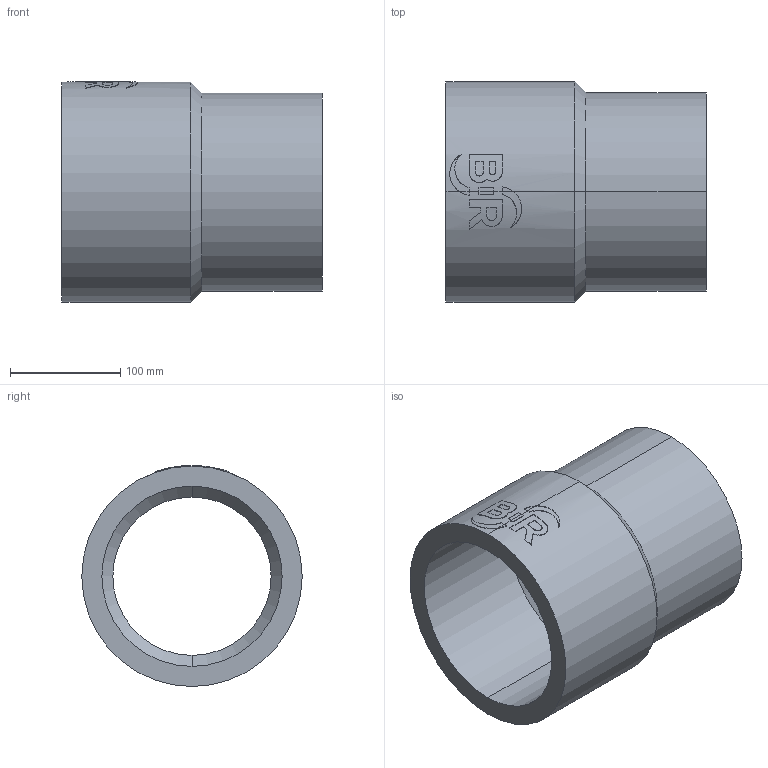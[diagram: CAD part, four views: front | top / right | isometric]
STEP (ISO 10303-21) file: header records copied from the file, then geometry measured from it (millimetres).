
FILE_DESCRIPTION (( 'STEP AP214' ), '1' );
FILE_NAME ('2323191835.STEP', '2018-07-20T09:10:21', ( '' ), ( '' ), 'SwSTEP 2.0', 'SolidWorks 2017', '' );
FILE_SCHEMA (( 'AUTOMOTIVE_DESIGN' ));
Length unit declared in the file: millimetre
Products named in the file (1): 2323191835
Bounding box: 236 x 200 x 200.46 mm (x, y, z)
Volume: 2359921.1 mm3; surface area: 279168.9 mm2
Topology: 1 solids, 1 shells, 63 faces, 160 edges, 104 vertices
Faces by surface type: cylinder 31, plane 28, cone 4
Entity records: 3293 total; most frequent: CARTESIAN_POINT 1084, ORIENTED_EDGE 320, DIRECTION 296, EDGE_CURVE 160, AXIS2_PLACEMENT_3D 112, VERTEX_POINT 104, LINE 72, VECTOR 72
